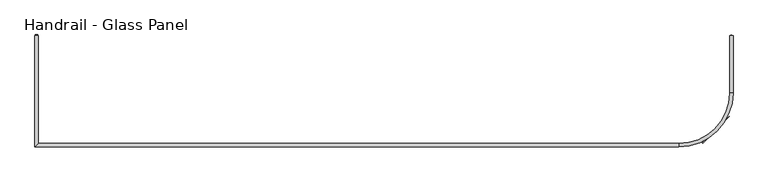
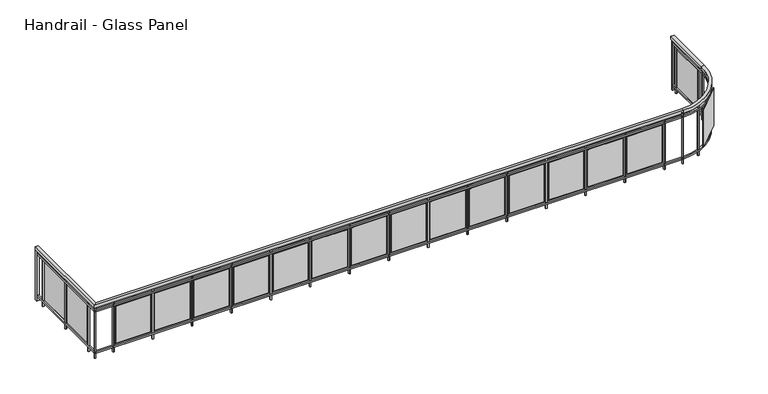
"""IFC4 building model written with IfcOpenShell, lengths in millimetres: railing geometry, Handrail - Glass Panel."""

from ifc_helpers import new_model, si_unit, point, frame, frame_2d, origin, place, context, project, spatial, polyline, circle_curve, trimmed, segment, composite_curve, outline, extrude, source, transform, mapped, element, save
from ifc_brep_helpers import plane_surface, cylinder_surface, revolved_surface, advanced_brep


def handrail_glass_panel_26aa19e9(model_context):
    return source(origin(), model_context, "Body", "SolidModel", [
        advanced_brep(
        [(19806.6134101, -11472.6148653, 5564.4), (19857.4134101, -11472.6148653, 5564.4), (19857.4134101, -11472.6148653, 5513.6), (19806.6134101, -11472.6148653, 5513.6), (19806.6134101, -13123.4148653, 5564.4), (19857.4134101, -13072.6148653, 5564.4), (19857.4134101, -13072.6148653, 5513.6), (19806.6134101, -13123.4148653, 5513.6), (29312.4134101, -13123.4148653, 5564.4), (29312.4134101, -13072.6148653, 5564.4), (29312.4134101, -13072.6148653, 5513.6), (29312.4134101, -13123.4148653, 5513.6), (30062.4134101, -12322.6148653, 5564.4), (30113.2134101, -12322.6148653, 5564.4), (30062.4134101, -12322.6148653, 5513.6), (30113.2134101, -12322.6148653, 5513.6), (30113.2134101, -11472.6148653, 5564.4), (30113.2134101, -11472.6148653, 5513.6), (30062.4134101, -11472.6148653, 5513.6), (30062.4134101, -11472.6148653, 5564.4)],
        [
            (0, 1),
            (1, 2),
            (2, 3),
            (3, 0),
            (0, 4),
            (4, 5),
            (5, 1),
            (5, 6),
            (6, 2),
            (6, 7),
            (7, 3),
            (7, 4),
            (4, 8),
            (8, 9),
            (9, 5),
            (9, 10),
            (10, 6),
            (10, 11),
            (11, 7),
            (11, 8),
            (12, 9, circle_curve(frame((29312.4134101, -12322.6148653, 5564.4), z_axis=(0.0, 0.0, -1.0), x_axis=(0.0, -1.0, 0.0)), 750.0)),
            (8, 13, circle_curve(frame((29312.4134101, -12322.6148653, 5564.4), z_axis=(0.0, 0.0, 1.0), x_axis=(0.0, -1.0, 0.0)), 800.8)),
            (13, 12),
            (14, 10, circle_curve(frame((29312.4134101, -12322.6148653, 5513.6), z_axis=(0.0, 0.0, -1.0), x_axis=(0.0, -1.0, 0.0)), 750.0)),
            (12, 14),
            (15, 11, circle_curve(frame((29312.4134101, -12322.6148653, 5513.6), z_axis=(0.0, 0.0, -1.0), x_axis=(0.0, -1.0, 0.0)), 800.8)),
            (14, 15),
            (15, 13),
            (16, 17),
            (17, 18),
            (18, 19),
            (19, 16),
            (13, 16),
            (19, 12),
            (18, 14),
            (17, 15),
        ],
        [
            plane_surface(frame((19832.0134101, -11472.6148653, 5564.4), z_axis=(0.0, 1.0, 0.0), x_axis=(0.0, 0.0, -1.0))),
            plane_surface(frame((19806.6134101, -11472.6148653, 5564.4), z_axis=(0.0, 0.0, 1.0), x_axis=(0.0, -1.0, 0.0))),
            plane_surface(frame((19857.4134101, -11472.6148653, 5564.4), z_axis=(1.0, 0.0, 0.0), x_axis=(0.0, -1.0, 0.0))),
            plane_surface(frame((19857.4134101, -11472.6148653, 5513.6), z_axis=(0.0, 0.0, -1.0), x_axis=(0.0, -1.0, 0.0))),
            plane_surface(frame((19806.6134101, -11472.6148653, 5513.6), z_axis=(-1.0, 0.0, 0.0), x_axis=(0.0, -1.0, 0.0))),
            plane_surface(frame((19806.6134101, -13123.4148653, 5564.4), z_axis=(0.0, 0.0, 1.0), x_axis=(1.0, 0.0, 0.0))),
            plane_surface(frame((19857.4134101, -13072.6148653, 5564.4), z_axis=(0.0, 1.0, 0.0), x_axis=(1.0, 0.0, 0.0))),
            plane_surface(frame((19857.4134101, -13072.6148653, 5513.6), z_axis=(0.0, 0.0, -1.0), x_axis=(1.0, 0.0, 0.0))),
            plane_surface(frame((19806.6134101, -13123.4148653, 5513.6), z_axis=(0.0, -1.0, 0.0), x_axis=(1.0, 0.0, 0.0))),
            plane_surface(frame((29312.4134101, -12322.6148653, 5564.4), z_axis=(0.0, 0.0, 1.0), x_axis=(0.0, -1.0, 0.0))),
            revolved_surface(polyline([(29312.4134101, -13072.6148653, 5564.4), (29312.4134101, -13072.6148653, 5513.6)]), (29312.4134101, -12322.6148653, 5564.4), (0.0, 0.0, 1.0)),
            plane_surface(frame((29312.4134101, -12322.6148653, 5513.6), z_axis=(0.0, 0.0, -1.0), x_axis=(0.0, -1.0, 0.0))),
            cylinder_surface(frame((29312.4134101, -12322.6148653, 5564.4), z_axis=(0.0, 0.0, 1.0), x_axis=(0.0, -1.0, 0.0)), 800.8),
            plane_surface(frame((30087.8134101, -11472.6148653, 5564.4), z_axis=(0.0, 1.0, 0.0), x_axis=(0.0, 0.0, 1.0))),
            plane_surface(frame((30113.2134101, -12322.6148653, 5564.4), z_axis=(0.0, 0.0, 1.0), x_axis=(0.0, 1.0, 0.0))),
            plane_surface(frame((30062.4134101, -12322.6148653, 5564.4), z_axis=(-1.0, 0.0, 0.0), x_axis=(0.0, 1.0, 0.0))),
            plane_surface(frame((30062.4134101, -12322.6148653, 5513.6), z_axis=(0.0, 0.0, -1.0), x_axis=(0.0, 1.0, 0.0))),
            plane_surface(frame((30113.2134101, -12322.6148653, 5513.6), z_axis=(1.0, 0.0, 0.0), x_axis=(0.0, 1.0, 0.0))),
        ],
        [
            (0, [[1, 2, 3, 4]]),
            (1, [[-1, 5, 6, 7]]),
            (2, [[-2, -7, 8, 9]]),
            (3, [[-3, -9, 10, 11]]),
            (4, [[-4, -11, 12, -5]]),
            (5, [[-6, 13, 14, 15]]),
            (6, [[-8, -15, 16, 17]]),
            (7, [[-10, -17, 18, 19]]),
            (8, [[-12, -19, 20, -13]]),
            (9, [[21, -14, 22, 23]]),
            (10, [[24, -16, -21, 25]]),
            (11, [[26, -18, -24, 27]]),
            (12, [[-22, -20, -26, 28]]),
            (13, [[29, 30, 31, 32]]),
            (14, [[-23, 33, -32, 34]]),
            (15, [[-25, -34, -31, 35]]),
            (16, [[-27, -35, -30, 36]]),
            (17, [[-28, -36, -29, -33]]),
        ],
    ),
        advanced_brep(
        [(19819.3134101, -11472.6148653, 5462.8), (19844.7134101, -11472.6148653, 5462.8), (19844.7134101, -11472.6148653, 5437.4), (19819.3134101, -11472.6148653, 5437.4), (19819.3134101, -13110.7148653, 5462.8), (19844.7134101, -13085.3148653, 5462.8), (19844.7134101, -13085.3148653, 5437.4), (19819.3134101, -13110.7148653, 5437.4), (29312.4134101, -13110.7148653, 5462.8), (29312.4134101, -13085.3148653, 5462.8), (29312.4134101, -13085.3148653, 5437.4), (29312.4134101, -13110.7148653, 5437.4), (30075.1134101, -12322.6148653, 5462.8), (30100.5134101, -12322.6148653, 5462.8), (30075.1134101, -12322.6148653, 5437.4), (30100.5134101, -12322.6148653, 5437.4), (30100.5134101, -11472.6148653, 5462.8), (30100.5134101, -11472.6148653, 5437.4), (30075.1134101, -11472.6148653, 5437.4), (30075.1134101, -11472.6148653, 5462.8)],
        [
            (0, 1),
            (1, 2),
            (2, 3),
            (3, 0),
            (0, 4),
            (4, 5),
            (5, 1),
            (5, 6),
            (6, 2),
            (6, 7),
            (7, 3),
            (7, 4),
            (4, 8),
            (8, 9),
            (9, 5),
            (9, 10),
            (10, 6),
            (10, 11),
            (11, 7),
            (11, 8),
            (12, 9, circle_curve(frame((29312.4134101, -12322.6148653, 5462.8), z_axis=(0.0, 0.0, -1.0), x_axis=(0.0, -1.0, 0.0)), 762.7)),
            (8, 13, circle_curve(frame((29312.4134101, -12322.6148653, 5462.8), z_axis=(0.0, 0.0, 1.0), x_axis=(0.0, -1.0, 0.0)), 788.1)),
            (13, 12),
            (14, 10, circle_curve(frame((29312.4134101, -12322.6148653, 5437.4), z_axis=(0.0, 0.0, -1.0), x_axis=(0.0, -1.0, 0.0)), 762.7)),
            (12, 14),
            (15, 11, circle_curve(frame((29312.4134101, -12322.6148653, 5437.4), z_axis=(0.0, 0.0, -1.0), x_axis=(0.0, -1.0, 0.0)), 788.1)),
            (14, 15),
            (15, 13),
            (16, 17),
            (17, 18),
            (18, 19),
            (19, 16),
            (13, 16),
            (19, 12),
            (18, 14),
            (17, 15),
        ],
        [
            plane_surface(frame((19832.0134101, -11472.6148653, 5462.8), z_axis=(0.0, 1.0, 0.0), x_axis=(0.0, 0.0, -1.0))),
            plane_surface(frame((19819.3134101, -11472.6148653, 5462.8), z_axis=(0.0, 0.0, 1.0), x_axis=(0.0, -1.0, 0.0))),
            plane_surface(frame((19844.7134101, -11472.6148653, 5462.8), z_axis=(1.0, 0.0, 0.0), x_axis=(0.0, -1.0, 0.0))),
            plane_surface(frame((19844.7134101, -11472.6148653, 5437.4), z_axis=(0.0, 0.0, -1.0), x_axis=(0.0, -1.0, 0.0))),
            plane_surface(frame((19819.3134101, -11472.6148653, 5437.4), z_axis=(-1.0, 0.0, 0.0), x_axis=(0.0, -1.0, 0.0))),
            plane_surface(frame((19819.3134101, -13110.7148653, 5462.8), z_axis=(0.0, 0.0, 1.0), x_axis=(1.0, 0.0, 0.0))),
            plane_surface(frame((19844.7134101, -13085.3148653, 5462.8), z_axis=(0.0, 1.0, 0.0), x_axis=(1.0, 0.0, 0.0))),
            plane_surface(frame((19844.7134101, -13085.3148653, 5437.4), z_axis=(0.0, 0.0, -1.0), x_axis=(1.0, 0.0, 0.0))),
            plane_surface(frame((19819.3134101, -13110.7148653, 5437.4), z_axis=(0.0, -1.0, 0.0), x_axis=(1.0, 0.0, 0.0))),
            plane_surface(frame((29312.4134101, -12322.6148653, 5462.8), z_axis=(0.0, 0.0, 1.0), x_axis=(0.0, -1.0, 0.0))),
            revolved_surface(polyline([(29312.4134101, -13085.3148653, 5462.8), (29312.4134101, -13085.3148653, 5437.4)]), (29312.4134101, -12322.6148653, 5462.8), (0.0, 0.0, 1.0)),
            plane_surface(frame((29312.4134101, -12322.6148653, 5437.4), z_axis=(0.0, 0.0, -1.0), x_axis=(0.0, -1.0, 0.0))),
            cylinder_surface(frame((29312.4134101, -12322.6148653, 5462.8), z_axis=(0.0, 0.0, 1.0), x_axis=(0.0, -1.0, 0.0)), 788.1),
            plane_surface(frame((30087.8134101, -11472.6148653, 5462.8), z_axis=(0.0, 1.0, 0.0), x_axis=(0.0, 0.0, 1.0))),
            plane_surface(frame((30100.5134101, -12322.6148653, 5462.8), z_axis=(0.0, 0.0, 1.0), x_axis=(0.0, 1.0, 0.0))),
            plane_surface(frame((30075.1134101, -12322.6148653, 5462.8), z_axis=(-1.0, 0.0, 0.0), x_axis=(0.0, 1.0, 0.0))),
            plane_surface(frame((30075.1134101, -12322.6148653, 5437.4), z_axis=(0.0, 0.0, -1.0), x_axis=(0.0, 1.0, 0.0))),
            plane_surface(frame((30100.5134101, -12322.6148653, 5437.4), z_axis=(1.0, 0.0, 0.0), x_axis=(0.0, 1.0, 0.0))),
        ],
        [
            (0, [[1, 2, 3, 4]]),
            (1, [[-1, 5, 6, 7]]),
            (2, [[-2, -7, 8, 9]]),
            (3, [[-3, -9, 10, 11]]),
            (4, [[-4, -11, 12, -5]]),
            (5, [[-6, 13, 14, 15]]),
            (6, [[-8, -15, 16, 17]]),
            (7, [[-10, -17, 18, 19]]),
            (8, [[-12, -19, 20, -13]]),
            (9, [[21, -14, 22, 23]]),
            (10, [[24, -16, -21, 25]]),
            (11, [[26, -18, -24, 27]]),
            (12, [[-22, -20, -26, 28]]),
            (13, [[29, 30, 31, 32]]),
            (14, [[-23, 33, -32, 34]]),
            (15, [[-25, -34, -31, 35]]),
            (16, [[-27, -35, -30, 36]]),
            (17, [[-28, -36, -29, -33]]),
        ],
    ),
        advanced_brep(
        [(19819.3134101, -11472.6148653, 4751.6), (19844.7134101, -11472.6148653, 4751.6), (19844.7134101, -11472.6148653, 4726.2), (19819.3134101, -11472.6148653, 4726.2), (19819.3134101, -13110.7148653, 4751.6), (19844.7134101, -13085.3148653, 4751.6), (19844.7134101, -13085.3148653, 4726.2), (19819.3134101, -13110.7148653, 4726.2), (29312.4134101, -13110.7148653, 4751.6), (29312.4134101, -13085.3148653, 4751.6), (29312.4134101, -13085.3148653, 4726.2), (29312.4134101, -13110.7148653, 4726.2), (30075.1134101, -12322.6148653, 4751.6), (30100.5134101, -12322.6148653, 4751.6), (30075.1134101, -12322.6148653, 4726.2), (30100.5134101, -12322.6148653, 4726.2), (30100.5134101, -11472.6148653, 4751.6), (30100.5134101, -11472.6148653, 4726.2), (30075.1134101, -11472.6148653, 4726.2), (30075.1134101, -11472.6148653, 4751.6)],
        [
            (0, 1),
            (1, 2),
            (2, 3),
            (3, 0),
            (0, 4),
            (4, 5),
            (5, 1),
            (5, 6),
            (6, 2),
            (6, 7),
            (7, 3),
            (7, 4),
            (4, 8),
            (8, 9),
            (9, 5),
            (9, 10),
            (10, 6),
            (10, 11),
            (11, 7),
            (11, 8),
            (12, 9, circle_curve(frame((29312.4134101, -12322.6148653, 4751.6), z_axis=(0.0, 0.0, -1.0), x_axis=(0.0, -1.0, 0.0)), 762.7)),
            (8, 13, circle_curve(frame((29312.4134101, -12322.6148653, 4751.6), z_axis=(0.0, 0.0, 1.0), x_axis=(0.0, -1.0, 0.0)), 788.1)),
            (13, 12),
            (14, 10, circle_curve(frame((29312.4134101, -12322.6148653, 4726.2), z_axis=(0.0, 0.0, -1.0), x_axis=(0.0, -1.0, 0.0)), 762.7)),
            (12, 14),
            (15, 11, circle_curve(frame((29312.4134101, -12322.6148653, 4726.2), z_axis=(0.0, 0.0, -1.0), x_axis=(0.0, -1.0, 0.0)), 788.1)),
            (14, 15),
            (15, 13),
            (16, 17),
            (17, 18),
            (18, 19),
            (19, 16),
            (13, 16),
            (19, 12),
            (18, 14),
            (17, 15),
        ],
        [
            plane_surface(frame((19832.0134101, -11472.6148653, 4751.6), z_axis=(0.0, 1.0, 0.0), x_axis=(0.0, 0.0, -1.0))),
            plane_surface(frame((19819.3134101, -11472.6148653, 4751.6), z_axis=(0.0, 0.0, 1.0), x_axis=(0.0, -1.0, 0.0))),
            plane_surface(frame((19844.7134101, -11472.6148653, 4751.6), z_axis=(1.0, 0.0, 0.0), x_axis=(0.0, -1.0, 0.0))),
            plane_surface(frame((19844.7134101, -11472.6148653, 4726.2), z_axis=(0.0, 0.0, -1.0), x_axis=(0.0, -1.0, 0.0))),
            plane_surface(frame((19819.3134101, -11472.6148653, 4726.2), z_axis=(-1.0, 0.0, 0.0), x_axis=(0.0, -1.0, 0.0))),
            plane_surface(frame((19819.3134101, -13110.7148653, 4751.6), z_axis=(0.0, 0.0, 1.0), x_axis=(1.0, 0.0, 0.0))),
            plane_surface(frame((19844.7134101, -13085.3148653, 4751.6), z_axis=(0.0, 1.0, 0.0), x_axis=(1.0, 0.0, 0.0))),
            plane_surface(frame((19844.7134101, -13085.3148653, 4726.2), z_axis=(0.0, 0.0, -1.0), x_axis=(1.0, 0.0, 0.0))),
            plane_surface(frame((19819.3134101, -13110.7148653, 4726.2), z_axis=(0.0, -1.0, 0.0), x_axis=(1.0, 0.0, 0.0))),
            plane_surface(frame((29312.4134101, -12322.6148653, 4751.6), z_axis=(0.0, 0.0, 1.0), x_axis=(0.0, -1.0, 0.0))),
            revolved_surface(polyline([(29312.4134101, -13085.3148653, 4751.6), (29312.4134101, -13085.3148653, 4726.2)]), (29312.4134101, -12322.6148653, 4751.6), (0.0, 0.0, 1.0)),
            plane_surface(frame((29312.4134101, -12322.6148653, 4726.2), z_axis=(0.0, 0.0, -1.0), x_axis=(0.0, -1.0, 0.0))),
            cylinder_surface(frame((29312.4134101, -12322.6148653, 4751.6), z_axis=(0.0, 0.0, 1.0), x_axis=(0.0, -1.0, 0.0)), 788.1),
            plane_surface(frame((30087.8134101, -11472.6148653, 4751.6), z_axis=(0.0, 1.0, 0.0), x_axis=(0.0, 0.0, 1.0))),
            plane_surface(frame((30100.5134101, -12322.6148653, 4751.6), z_axis=(0.0, 0.0, 1.0), x_axis=(0.0, 1.0, 0.0))),
            plane_surface(frame((30075.1134101, -12322.6148653, 4751.6), z_axis=(-1.0, 0.0, 0.0), x_axis=(0.0, 1.0, 0.0))),
            plane_surface(frame((30075.1134101, -12322.6148653, 4726.2), z_axis=(0.0, 0.0, -1.0), x_axis=(0.0, 1.0, 0.0))),
            plane_surface(frame((30100.5134101, -12322.6148653, 4726.2), z_axis=(1.0, 0.0, 0.0), x_axis=(0.0, 1.0, 0.0))),
        ],
        [
            (0, [[1, 2, 3, 4]]),
            (1, [[-1, 5, 6, 7]]),
            (2, [[-2, -7, 8, 9]]),
            (3, [[-3, -9, 10, 11]]),
            (4, [[-4, -11, 12, -5]]),
            (5, [[-6, 13, 14, 15]]),
            (6, [[-8, -15, 16, 17]]),
            (7, [[-10, -17, 18, 19]]),
            (8, [[-12, -19, 20, -13]]),
            (9, [[21, -14, 22, 23]]),
            (10, [[24, -16, -21, 25]]),
            (11, [[26, -18, -24, 27]]),
            (12, [[-22, -20, -26, 28]]),
            (13, [[29, 30, 31, 32]]),
            (14, [[-23, 33, -32, 34]]),
            (15, [[-25, -34, -31, 35]]),
            (16, [[-27, -35, -30, 36]]),
            (17, [[-28, -36, -29, -33]]),
        ],
    ),
        extrude(outline(polyline([(30097.3384101, -11589.6398653), (30078.2884101, -11589.6398653), (30078.2884101, -11570.5898653), (30097.3384101, -11570.5898653), (30097.3384101, -11589.6398653)])), frame((0.0, 0.0, 4650.0), z_axis=(0.0, 0.0, 1.0), x_axis=(1.0, 0.0, 0.0)), (0.0, 0.0, 1.0), 863.6),
        extrude(outline(polyline([(30081.4634101, -12177.0148653), (30081.4634101, -11618.2148653), (30087.8134101, -11618.2148653), (30087.8134101, -12177.0148653), (30081.4634101, -12177.0148653)])), frame((0.0, 0.0, 4777.0), z_axis=(0.0, 0.0, 1.0), x_axis=(1.0, 0.0, 0.0)), (0.0, 0.0, 1.0), 635.0),
        extrude(outline(polyline([(30097.3384101, -12224.6398653), (30078.2884101, -12224.6398653), (30078.2884101, -12205.5898653), (30097.3384101, -12205.5898653), (30097.3384101, -12224.6398653)])), frame((0.0, 0.0, 4650.0), z_axis=(0.0, 0.0, 1.0), x_axis=(1.0, 0.0, 0.0)), (0.0, 0.0, 1.0), 863.6),
        extrude(outline(polyline([(30039.0268125, -12619.651807), (30021.3071536, -12612.6577961), (30028.3011644, -12594.9381372), (30046.0208234, -12601.9321481), (30039.0268125, -12619.651807)])), frame((0.0, 0.0, 4650.0), z_axis=(0.0, 0.0, 1.0), x_axis=(1.0, 0.0, 0.0)), (0.0, 0.0, 1.0), 863.6),
        extrude(outline(polyline([(29658.6482455, -13063.98097), (30053.7795148, -12668.8497007), (30058.2696429, -12673.3398287), (29663.1383736, -13068.4710981), (29658.6482455, -13063.98097)])), frame((0.0, 0.0, 4777.0), z_axis=(0.0, 0.0, 1.0), x_axis=(1.0, 0.0, 0.0)), (0.0, 0.0, 1.0), 635.0),
        extrude(outline(polyline([(29591.7306929, -13056.2222785), (29584.7366821, -13038.5026196), (29602.456341, -13031.5086087), (29609.4503519, -13049.2282676), (29591.7306929, -13056.2222785)])), frame((0.0, 0.0, 4650.0), z_axis=(0.0, 0.0, 1.0), x_axis=(1.0, 0.0, 0.0)), (0.0, 0.0, 1.0), 863.6),
        extrude(outline(polyline([(29007.6884101, -13107.5398653), (29007.6884101, -13088.4898653), (29026.7384101, -13088.4898653), (29026.7384101, -13107.5398653), (29007.6884101, -13107.5398653)])), frame((0.0, 0.0, 4650.0), z_axis=(0.0, 0.0, 1.0), x_axis=(1.0, 0.0, 0.0)), (0.0, 0.0, 1.0), 863.6),
        extrude(outline(polyline([(28420.3134101, -13091.6648653), (28979.1134101, -13091.6648653), (28979.1134101, -13098.0148653), (28420.3134101, -13098.0148653), (28420.3134101, -13091.6648653)])), frame((0.0, 0.0, 4777.0), z_axis=(0.0, 0.0, 1.0), x_axis=(1.0, 0.0, 0.0)), (0.0, 0.0, 1.0), 635.0),
        extrude(outline(polyline([(28372.6884101, -13107.5398653), (28372.6884101, -13088.4898653), (28391.7384101, -13088.4898653), (28391.7384101, -13107.5398653), (28372.6884101, -13107.5398653)])), frame((0.0, 0.0, 4650.0), z_axis=(0.0, 0.0, 1.0), x_axis=(1.0, 0.0, 0.0)), (0.0, 0.0, 1.0), 863.6),
        extrude(outline(polyline([(27785.3134101, -13091.6648653), (28344.1134101, -13091.6648653), (28344.1134101, -13098.0148653), (27785.3134101, -13098.0148653), (27785.3134101, -13091.6648653)])), frame((0.0, 0.0, 4777.0), z_axis=(0.0, 0.0, 1.0), x_axis=(1.0, 0.0, 0.0)), (0.0, 0.0, 1.0), 635.0),
        extrude(outline(polyline([(27737.6884101, -13107.5398653), (27737.6884101, -13088.4898653), (27756.7384101, -13088.4898653), (27756.7384101, -13107.5398653), (27737.6884101, -13107.5398653)])), frame((0.0, 0.0, 4650.0), z_axis=(0.0, 0.0, 1.0), x_axis=(1.0, 0.0, 0.0)), (0.0, 0.0, 1.0), 863.6),
        extrude(outline(polyline([(27150.3134101, -13091.6648653), (27709.1134101, -13091.6648653), (27709.1134101, -13098.0148653), (27150.3134101, -13098.0148653), (27150.3134101, -13091.6648653)])), frame((0.0, 0.0, 4777.0), z_axis=(0.0, 0.0, 1.0), x_axis=(1.0, 0.0, 0.0)), (0.0, 0.0, 1.0), 635.0),
        extrude(outline(polyline([(27102.6884101, -13107.5398653), (27102.6884101, -13088.4898653), (27121.7384101, -13088.4898653), (27121.7384101, -13107.5398653), (27102.6884101, -13107.5398653)])), frame((0.0, 0.0, 4650.0), z_axis=(0.0, 0.0, 1.0), x_axis=(1.0, 0.0, 0.0)), (0.0, 0.0, 1.0), 863.6),
        extrude(outline(polyline([(26515.3134101, -13091.6648653), (27074.1134101, -13091.6648653), (27074.1134101, -13098.0148653), (26515.3134101, -13098.0148653), (26515.3134101, -13091.6648653)])), frame((0.0, 0.0, 4777.0), z_axis=(0.0, 0.0, 1.0), x_axis=(1.0, 0.0, 0.0)), (0.0, 0.0, 1.0), 635.0),
        extrude(outline(polyline([(26467.6884101, -13107.5398653), (26467.6884101, -13088.4898653), (26486.7384101, -13088.4898653), (26486.7384101, -13107.5398653), (26467.6884101, -13107.5398653)])), frame((0.0, 0.0, 4650.0), z_axis=(0.0, 0.0, 1.0), x_axis=(1.0, 0.0, 0.0)), (0.0, 0.0, 1.0), 863.6),
        extrude(outline(polyline([(25880.3134101, -13091.6648653), (26439.1134101, -13091.6648653), (26439.1134101, -13098.0148653), (25880.3134101, -13098.0148653), (25880.3134101, -13091.6648653)])), frame((0.0, 0.0, 4777.0), z_axis=(0.0, 0.0, 1.0), x_axis=(1.0, 0.0, 0.0)), (0.0, 0.0, 1.0), 635.0),
        extrude(outline(polyline([(25832.6884101, -13107.5398653), (25832.6884101, -13088.4898653), (25851.7384101, -13088.4898653), (25851.7384101, -13107.5398653), (25832.6884101, -13107.5398653)])), frame((0.0, 0.0, 4650.0), z_axis=(0.0, 0.0, 1.0), x_axis=(1.0, 0.0, 0.0)), (0.0, 0.0, 1.0), 863.6),
        extrude(outline(polyline([(25245.3134101, -13091.6648653), (25804.1134101, -13091.6648653), (25804.1134101, -13098.0148653), (25245.3134101, -13098.0148653), (25245.3134101, -13091.6648653)])), frame((0.0, 0.0, 4777.0), z_axis=(0.0, 0.0, 1.0), x_axis=(1.0, 0.0, 0.0)), (0.0, 0.0, 1.0), 635.0),
        extrude(outline(polyline([(25197.6884101, -13107.5398653), (25197.6884101, -13088.4898653), (25216.7384101, -13088.4898653), (25216.7384101, -13107.5398653), (25197.6884101, -13107.5398653)])), frame((0.0, 0.0, 4650.0), z_axis=(0.0, 0.0, 1.0), x_axis=(1.0, 0.0, 0.0)), (0.0, 0.0, 1.0), 863.6),
        extrude(outline(polyline([(24610.3134101, -13091.6648653), (25169.1134101, -13091.6648653), (25169.1134101, -13098.0148653), (24610.3134101, -13098.0148653), (24610.3134101, -13091.6648653)])), frame((0.0, 0.0, 4777.0), z_axis=(0.0, 0.0, 1.0), x_axis=(1.0, 0.0, 0.0)), (0.0, 0.0, 1.0), 635.0),
        extrude(outline(polyline([(24562.6884101, -13107.5398653), (24562.6884101, -13088.4898653), (24581.7384101, -13088.4898653), (24581.7384101, -13107.5398653), (24562.6884101, -13107.5398653)])), frame((0.0, 0.0, 4650.0), z_axis=(0.0, 0.0, 1.0), x_axis=(1.0, 0.0, 0.0)), (0.0, 0.0, 1.0), 863.6),
        extrude(outline(polyline([(23975.3134101, -13091.6648653), (24534.1134101, -13091.6648653), (24534.1134101, -13098.0148653), (23975.3134101, -13098.0148653), (23975.3134101, -13091.6648653)])), frame((0.0, 0.0, 4777.0), z_axis=(0.0, 0.0, 1.0), x_axis=(1.0, 0.0, 0.0)), (0.0, 0.0, 1.0), 635.0),
        extrude(outline(polyline([(23927.6884101, -13107.5398653), (23927.6884101, -13088.4898653), (23946.7384101, -13088.4898653), (23946.7384101, -13107.5398653), (23927.6884101, -13107.5398653)])), frame((0.0, 0.0, 4650.0), z_axis=(0.0, 0.0, 1.0), x_axis=(1.0, 0.0, 0.0)), (0.0, 0.0, 1.0), 863.6),
        extrude(outline(polyline([(23340.3134101, -13091.6648653), (23899.1134101, -13091.6648653), (23899.1134101, -13098.0148653), (23340.3134101, -13098.0148653), (23340.3134101, -13091.6648653)])), frame((0.0, 0.0, 4777.0), z_axis=(0.0, 0.0, 1.0), x_axis=(1.0, 0.0, 0.0)), (0.0, 0.0, 1.0), 635.0),
        extrude(outline(polyline([(23292.6884101, -13107.5398653), (23292.6884101, -13088.4898653), (23311.7384101, -13088.4898653), (23311.7384101, -13107.5398653), (23292.6884101, -13107.5398653)])), frame((0.0, 0.0, 4650.0), z_axis=(0.0, 0.0, 1.0), x_axis=(1.0, 0.0, 0.0)), (0.0, 0.0, 1.0), 863.6),
        extrude(outline(polyline([(22705.3134101, -13091.6648653), (23264.1134101, -13091.6648653), (23264.1134101, -13098.0148653), (22705.3134101, -13098.0148653), (22705.3134101, -13091.6648653)])), frame((0.0, 0.0, 4777.0), z_axis=(0.0, 0.0, 1.0), x_axis=(1.0, 0.0, 0.0)), (0.0, 0.0, 1.0), 635.0),
        extrude(outline(polyline([(22657.6884101, -13107.5398653), (22657.6884101, -13088.4898653), (22676.7384101, -13088.4898653), (22676.7384101, -13107.5398653), (22657.6884101, -13107.5398653)])), frame((0.0, 0.0, 4650.0), z_axis=(0.0, 0.0, 1.0), x_axis=(1.0, 0.0, 0.0)), (0.0, 0.0, 1.0), 863.6),
        extrude(outline(polyline([(22070.3134101, -13091.6648653), (22629.1134101, -13091.6648653), (22629.1134101, -13098.0148653), (22070.3134101, -13098.0148653), (22070.3134101, -13091.6648653)])), frame((0.0, 0.0, 4777.0), z_axis=(0.0, 0.0, 1.0), x_axis=(1.0, 0.0, 0.0)), (0.0, 0.0, 1.0), 635.0),
        extrude(outline(polyline([(22022.6884101, -13107.5398653), (22022.6884101, -13088.4898653), (22041.7384101, -13088.4898653), (22041.7384101, -13107.5398653), (22022.6884101, -13107.5398653)])), frame((0.0, 0.0, 4650.0), z_axis=(0.0, 0.0, 1.0), x_axis=(1.0, 0.0, 0.0)), (0.0, 0.0, 1.0), 863.6),
        extrude(outline(polyline([(21435.3134101, -13091.6648653), (21994.1134101, -13091.6648653), (21994.1134101, -13098.0148653), (21435.3134101, -13098.0148653), (21435.3134101, -13091.6648653)])), frame((0.0, 0.0, 4777.0), z_axis=(0.0, 0.0, 1.0), x_axis=(1.0, 0.0, 0.0)), (0.0, 0.0, 1.0), 635.0),
        extrude(outline(polyline([(21387.6884101, -13107.5398653), (21387.6884101, -13088.4898653), (21406.7384101, -13088.4898653), (21406.7384101, -13107.5398653), (21387.6884101, -13107.5398653)])), frame((0.0, 0.0, 4650.0), z_axis=(0.0, 0.0, 1.0), x_axis=(1.0, 0.0, 0.0)), (0.0, 0.0, 1.0), 863.6),
        extrude(outline(polyline([(20800.3134101, -13091.6648653), (21359.1134101, -13091.6648653), (21359.1134101, -13098.0148653), (20800.3134101, -13098.0148653), (20800.3134101, -13091.6648653)])), frame((0.0, 0.0, 4777.0), z_axis=(0.0, 0.0, 1.0), x_axis=(1.0, 0.0, 0.0)), (0.0, 0.0, 1.0), 635.0),
        extrude(outline(polyline([(20752.6884101, -13107.5398653), (20752.6884101, -13088.4898653), (20771.7384101, -13088.4898653), (20771.7384101, -13107.5398653), (20752.6884101, -13107.5398653)])), frame((0.0, 0.0, 4650.0), z_axis=(0.0, 0.0, 1.0), x_axis=(1.0, 0.0, 0.0)), (0.0, 0.0, 1.0), 863.6),
        extrude(outline(polyline([(20165.3134101, -13091.6648653), (20724.1134101, -13091.6648653), (20724.1134101, -13098.0148653), (20165.3134101, -13098.0148653), (20165.3134101, -13091.6648653)])), frame((0.0, 0.0, 4777.0), z_axis=(0.0, 0.0, 1.0), x_axis=(1.0, 0.0, 0.0)), (0.0, 0.0, 1.0), 635.0),
        extrude(outline(polyline([(20117.6884101, -13107.5398653), (20117.6884101, -13088.4898653), (20136.7384101, -13088.4898653), (20136.7384101, -13107.5398653), (20117.6884101, -13107.5398653)])), frame((0.0, 0.0, 4650.0), z_axis=(0.0, 0.0, 1.0), x_axis=(1.0, 0.0, 0.0)), (0.0, 0.0, 1.0), 863.6),
        extrude(outline(polyline([(19822.4884101, -12910.7898653), (19841.5384101, -12910.7898653), (19841.5384101, -12929.8398653), (19822.4884101, -12929.8398653), (19822.4884101, -12910.7898653)])), frame((0.0, 0.0, 4650.0), z_axis=(0.0, 0.0, 1.0), x_axis=(1.0, 0.0, 0.0)), (0.0, 0.0, 1.0), 863.6),
        extrude(outline(polyline([(19838.3634101, -12323.4148653), (19838.3634101, -12882.2148653), (19832.0134101, -12882.2148653), (19832.0134101, -12323.4148653), (19838.3634101, -12323.4148653)])), frame((0.0, 0.0, 4777.0), z_axis=(0.0, 0.0, 1.0), x_axis=(1.0, 0.0, 0.0)), (0.0, 0.0, 1.0), 635.0),
        extrude(outline(polyline([(19822.4884101, -12275.7898653), (19841.5384101, -12275.7898653), (19841.5384101, -12294.8398653), (19822.4884101, -12294.8398653), (19822.4884101, -12275.7898653)])), frame((0.0, 0.0, 4650.0), z_axis=(0.0, 0.0, 1.0), x_axis=(1.0, 0.0, 0.0)), (0.0, 0.0, 1.0), 863.6),
        extrude(outline(polyline([(19838.3634101, -11688.4148653), (19838.3634101, -12247.2148653), (19832.0134101, -12247.2148653), (19832.0134101, -11688.4148653), (19838.3634101, -11688.4148653)])), frame((0.0, 0.0, 4777.0), z_axis=(0.0, 0.0, 1.0), x_axis=(1.0, 0.0, 0.0)), (0.0, 0.0, 1.0), 635.0),
        extrude(outline(polyline([(19822.4884101, -11640.7898653), (19841.5384101, -11640.7898653), (19841.5384101, -11659.8398653), (19822.4884101, -11659.8398653), (19822.4884101, -11640.7898653)])), frame((0.0, 0.0, 4650.0), z_axis=(0.0, 0.0, 1.0), x_axis=(1.0, 0.0, 0.0)), (0.0, 0.0, 1.0), 863.6),
        extrude(outline(composite_curve([segment(trimmed(circle_curve(frame_2d((30087.8134101, -12322.6148653)), 12.7), [point((30075.1134101, -12322.6148653))], [point((30100.5134101, -12322.6148653))], False, "CARTESIAN"), True, "CONTINUOUS"), segment(trimmed(circle_curve(frame_2d((30087.8134101, -12322.6148653)), 12.7), [point((30100.5134101, -12322.6148653))], [point((30075.1134101, -12322.6148653))], False, "CARTESIAN"), True, "CONTINUOUS")], self_intersect=False)), frame((0.0, 0.0, 4650.0), z_axis=(0.0, 0.0, 1.0), x_axis=(1.0, 0.0, 0.0)), (0.0, 0.0, 1.0), 863.6),
        extrude(outline(composite_curve([segment(trimmed(circle_curve(frame_2d((29312.4134101, -13098.0148653)), 12.7), [point((29312.4134101, -13085.3148653))], [point((29312.4134101, -13110.7148653))], False, "CARTESIAN"), True, "CONTINUOUS"), segment(trimmed(circle_curve(frame_2d((29312.4134101, -13098.0148653)), 12.7), [point((29312.4134101, -13110.7148653))], [point((29312.4134101, -13085.3148653))], False, "CARTESIAN"), True, "CONTINUOUS")], self_intersect=False)), frame((0.0, 0.0, 4650.0), z_axis=(0.0, 0.0, 1.0), x_axis=(1.0, 0.0, 0.0)), (0.0, 0.0, 1.0), 863.6),
        extrude(outline(composite_curve([segment(trimmed(circle_curve(frame_2d((19832.0134101, -13098.0148653)), 12.7), [point((19844.7134101, -13098.0148653))], [point((19819.3134101, -13098.0148653))], False, "CARTESIAN"), True, "CONTINUOUS"), segment(trimmed(circle_curve(frame_2d((19832.0134101, -13098.0148653)), 12.7), [point((19819.3134101, -13098.0148653))], [point((19844.7134101, -13098.0148653))], False, "CARTESIAN"), True, "CONTINUOUS")], self_intersect=False)), frame((0.0, 0.0, 4650.0), z_axis=(0.0, 0.0, 1.0), x_axis=(1.0, 0.0, 0.0)), (0.0, 0.0, 1.0), 863.6),
        extrude(outline(composite_curve([segment(trimmed(circle_curve(frame_2d((30087.8134101, -11482.1398653)), 12.7), [point((30075.1134101, -11482.1398653))], [point((30100.5134101, -11482.1398653))], False, "CARTESIAN"), True, "CONTINUOUS"), segment(trimmed(circle_curve(frame_2d((30087.8134101, -11482.1398653)), 12.7), [point((30100.5134101, -11482.1398653))], [point((30075.1134101, -11482.1398653))], False, "CARTESIAN"), True, "CONTINUOUS")], self_intersect=False)), frame((0.0, 0.0, 4650.0), z_axis=(0.0, 0.0, 1.0), x_axis=(1.0, 0.0, 0.0)), (0.0, 0.0, 1.0), 863.6),
        extrude(outline(polyline([(19812.9634101, -11463.0898653), (19851.0634101, -11463.0898653), (19851.0634101, -11501.1898653), (19812.9634101, -11501.1898653), (19812.9634101, -11463.0898653)])), frame((0.0, 0.0, 4650.0), z_axis=(0.0, 0.0, 1.0), x_axis=(1.0, 0.0, 0.0)), (0.0, 0.0, 1.0), 863.6),
    ])


if __name__ == "__main__":
    model = new_model("IFC4")
    model_context = context("Model", 3, world=origin())
    ifc_project = project(units=[si_unit("LENGTHUNIT", "METRE", prefix="MILLI")], contexts=[model_context])
    site = spatial("IfcSite", under=ifc_project)
    building = spatial("IfcBuilding", under=site)
    placement = place(None, origin())
    handrail_glass_panel_shape = handrail_glass_panel_26aa19e9(model_context)
    element("IfcRailing", 1, ObjectType="Handrail - Glass Panel", at=placement, inside=building, context=model_context, shape_type="MappedRepresentation", body=[
        mapped(handrail_glass_panel_shape, transform((0.0, 0.0, 0.0), x_axis=(1.0, 0.0, 0.0), y_axis=(0.0, 1.0, 0.0), z_axis=(0.0, 0.0, 1.0))),
    ])
    save(model, "model.ifc")
